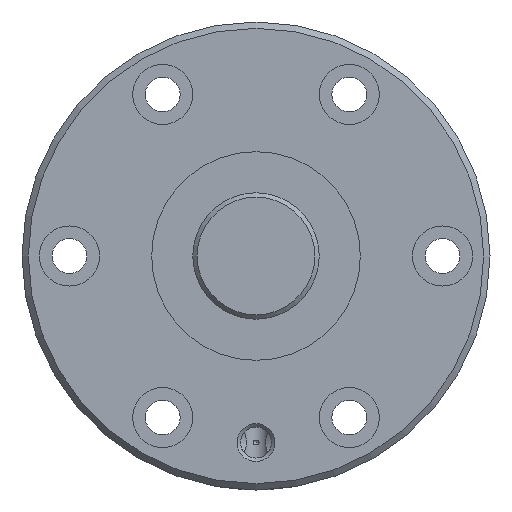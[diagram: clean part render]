
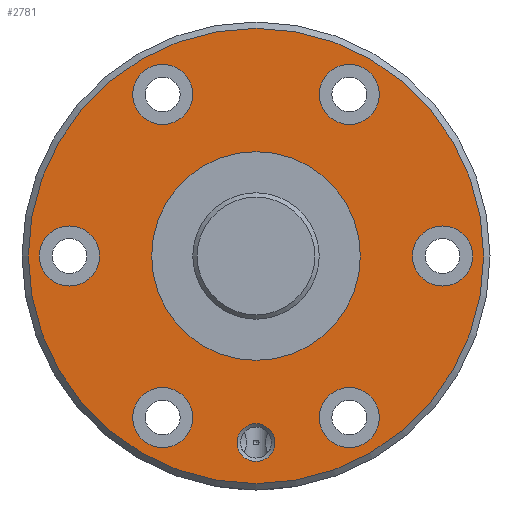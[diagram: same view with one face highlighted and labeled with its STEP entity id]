
A CAD part, left-side view. The second image highlights one B-rep face of the part: STEP entity #2781.
In plain terms, the highlighted planar face has unit normal (-1, 0, 0).
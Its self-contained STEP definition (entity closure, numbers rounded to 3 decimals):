
#780=ORIENTED_EDGE('',*,*,#1535,.T.);
#781=ORIENTED_EDGE('',*,*,#1536,.T.);
#782=ORIENTED_EDGE('',*,*,#1537,.T.);
#783=ORIENTED_EDGE('',*,*,#1538,.T.);
#784=ORIENTED_EDGE('',*,*,#1539,.T.);
#785=ORIENTED_EDGE('',*,*,#1540,.T.);
#786=ORIENTED_EDGE('',*,*,#1541,.T.);
#787=ORIENTED_EDGE('',*,*,#1542,.T.);
#788=ORIENTED_EDGE('',*,*,#1534,.F.);
#1534=EDGE_CURVE('',#1909,#1909,#2104,.T.);
#1535=EDGE_CURVE('',#1910,#1910,#2105,.T.);
#1536=EDGE_CURVE('',#1911,#1911,#2106,.F.);
#1537=EDGE_CURVE('',#1912,#1912,#2107,.T.);
#1538=EDGE_CURVE('',#1913,#1913,#2108,.T.);
#1539=EDGE_CURVE('',#1914,#1914,#2109,.T.);
#1540=EDGE_CURVE('',#1915,#1915,#2110,.T.);
#1541=EDGE_CURVE('',#1916,#1916,#2111,.T.);
#1542=EDGE_CURVE('',#1917,#1917,#2112,.T.);
#1909=VERTEX_POINT('',#4374);
#1910=VERTEX_POINT('',#4377);
#1911=VERTEX_POINT('',#4379);
#1912=VERTEX_POINT('',#4381);
#1913=VERTEX_POINT('',#4383);
#1914=VERTEX_POINT('',#4385);
#1915=VERTEX_POINT('',#4387);
#1916=VERTEX_POINT('',#4389);
#1917=VERTEX_POINT('',#4391);
#2104=CIRCLE('',#3011,36.);
#2105=CIRCLE('',#3013,16.5);
#2106=CIRCLE('',#3014,4.75);
#2107=CIRCLE('',#3015,3.);
#2108=CIRCLE('',#3016,4.75);
#2109=CIRCLE('',#3017,4.75);
#2110=CIRCLE('',#3018,4.75);
#2111=CIRCLE('',#3019,4.75);
#2112=CIRCLE('',#3020,4.75);
#2221=EDGE_LOOP('',(#780));
#2222=EDGE_LOOP('',(#781));
#2223=EDGE_LOOP('',(#782));
#2224=EDGE_LOOP('',(#783));
#2225=EDGE_LOOP('',(#784));
#2226=EDGE_LOOP('',(#785));
#2227=EDGE_LOOP('',(#786));
#2228=EDGE_LOOP('',(#787));
#2229=EDGE_LOOP('',(#788));
#2457=FACE_BOUND('',#2221,.T.);
#2458=FACE_BOUND('',#2222,.T.);
#2459=FACE_BOUND('',#2223,.T.);
#2460=FACE_BOUND('',#2224,.T.);
#2461=FACE_BOUND('',#2225,.T.);
#2462=FACE_BOUND('',#2226,.T.);
#2463=FACE_BOUND('',#2227,.T.);
#2464=FACE_BOUND('',#2228,.T.);
#2465=FACE_BOUND('',#2229,.T.);
#2667=PLANE('',#3012);
#2781=ADVANCED_FACE('',(#2457,#2458,#2459,#2460,#2461,#2462,#2463,#2464,
#2465),#2667,.T.);
#3011=AXIS2_PLACEMENT_3D('',#4373,#3426,#3427);
#3012=AXIS2_PLACEMENT_3D('',#4375,#3428,#3429);
#3013=AXIS2_PLACEMENT_3D('',#4376,#3430,#3431);
#3014=AXIS2_PLACEMENT_3D('',#4378,#3432,#3433);
#3015=AXIS2_PLACEMENT_3D('',#4380,#3434,#3435);
#3016=AXIS2_PLACEMENT_3D('',#4382,#3436,#3437);
#3017=AXIS2_PLACEMENT_3D('',#4384,#3438,#3439);
#3018=AXIS2_PLACEMENT_3D('',#4386,#3440,#3441);
#3019=AXIS2_PLACEMENT_3D('',#4388,#3442,#3443);
#3020=AXIS2_PLACEMENT_3D('',#4390,#3444,#3445);
#3426=DIRECTION('',(1.,0.,0.));
#3427=DIRECTION('',(0.,0.,-1.));
#3428=DIRECTION('',(-1.,0.,0.));
#3429=DIRECTION('',(0.,0.,1.));
#3430=DIRECTION('',(1.,0.,0.));
#3431=DIRECTION('',(0.,0.,-1.));
#3432=DIRECTION('',(-1.,0.,0.));
#3433=DIRECTION('',(0.,0.,1.));
#3434=DIRECTION('',(1.,0.,0.));
#3435=DIRECTION('',(0.,0.,-1.));
#3436=DIRECTION('',(1.,0.,0.));
#3437=DIRECTION('',(0.,0.,-1.));
#3438=DIRECTION('',(1.,0.,0.));
#3439=DIRECTION('',(0.,0.,-1.));
#3440=DIRECTION('',(1.,0.,0.));
#3441=DIRECTION('',(0.,0.,-1.));
#3442=DIRECTION('',(1.,0.,0.));
#3443=DIRECTION('',(0.,0.,-1.));
#3444=DIRECTION('',(1.,0.,0.));
#3445=DIRECTION('',(0.,0.,-1.));
#4373=CARTESIAN_POINT('',(0.,0.,0.));
#4374=CARTESIAN_POINT('',(0.,0.,-36.));
#4375=CARTESIAN_POINT('',(0.,36.,0.));
#4376=CARTESIAN_POINT('',(0.,0.,0.));
#4377=CARTESIAN_POINT('',(0.,0.,-16.5));
#4378=CARTESIAN_POINT('',(0.,29.5,0.));
#4379=CARTESIAN_POINT('',(0.,29.5,4.75));
#4380=CARTESIAN_POINT('',(0.,0.,-29.5));
#4381=CARTESIAN_POINT('',(0.,0.,-32.5));
#4382=CARTESIAN_POINT('',(0.,14.75,25.548));
#4383=CARTESIAN_POINT('',(0.,14.75,20.798));
#4384=CARTESIAN_POINT('',(0.,-14.75,-25.548));
#4385=CARTESIAN_POINT('',(0.,-14.75,-30.298));
#4386=CARTESIAN_POINT('',(0.,-14.75,25.548));
#4387=CARTESIAN_POINT('',(0.,-14.75,20.798));
#4388=CARTESIAN_POINT('',(0.,14.75,-25.548));
#4389=CARTESIAN_POINT('',(0.,14.75,-30.298));
#4390=CARTESIAN_POINT('',(0.,-29.5,0.));
#4391=CARTESIAN_POINT('',(0.,-29.5,-4.75));
